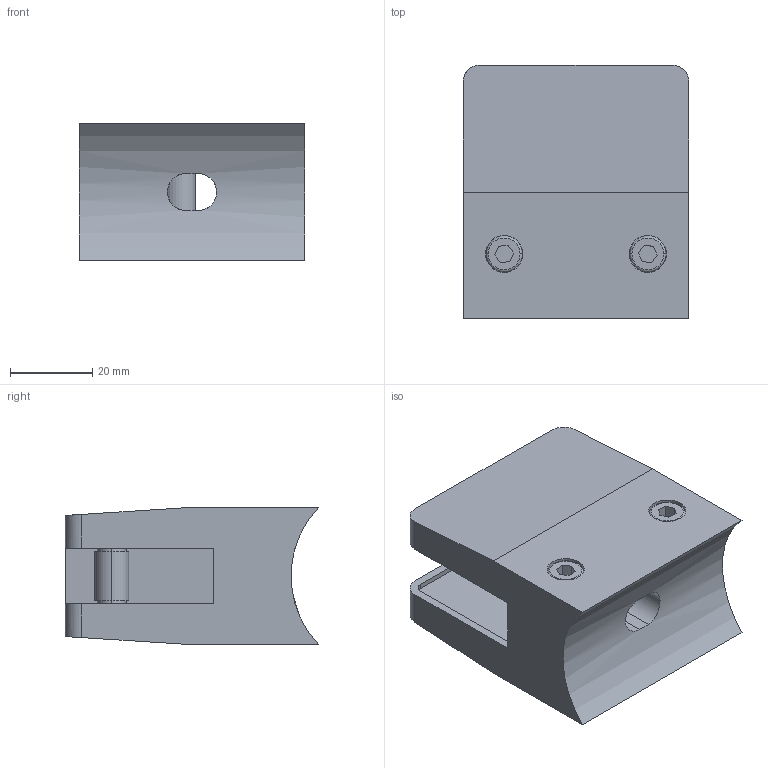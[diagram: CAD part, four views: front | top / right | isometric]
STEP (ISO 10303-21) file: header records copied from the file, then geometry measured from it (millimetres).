
FILE_DESCRIPTION (( 'STEP AP203' ), '1' );
FILE_NAME ('3D_GG4522_G 48.3_188753890.STEP', '2024-11-01T08:42:40', ( '' ), ( '' ), 'SwSTEP 2.0', 'SolidWorks 2023', '' );
FILE_SCHEMA (( 'CONFIG_CONTROL_DESIGN' ));
Length unit declared in the file: millimetre
Products named in the file (1): 3D_GG4522_G 48.3_188753890
Bounding box: 55 x 61.75 x 33.5 mm (x, y, z)
Volume: 73305.8 mm3; surface area: 21221.2 mm2
Topology: 3 solids, 3 shells, 89 faces, 205 edges, 134 vertices
Faces by surface type: plane 49, cylinder 32, torus 4, cone 4
Entity records: 2665 total; most frequent: CARTESIAN_POINT 508, DIRECTION 446, ORIENTED_EDGE 410, EDGE_CURVE 205, AXIS2_PLACEMENT_3D 158, VERTEX_POINT 134, VECTOR 130, LINE 130
